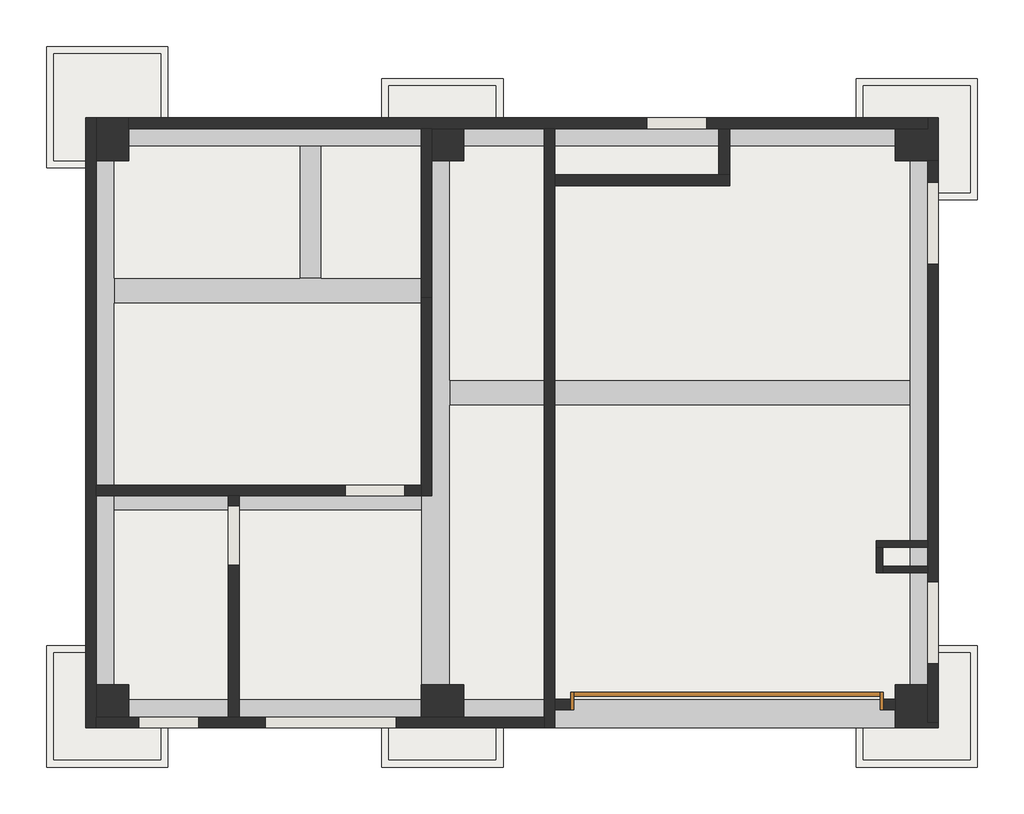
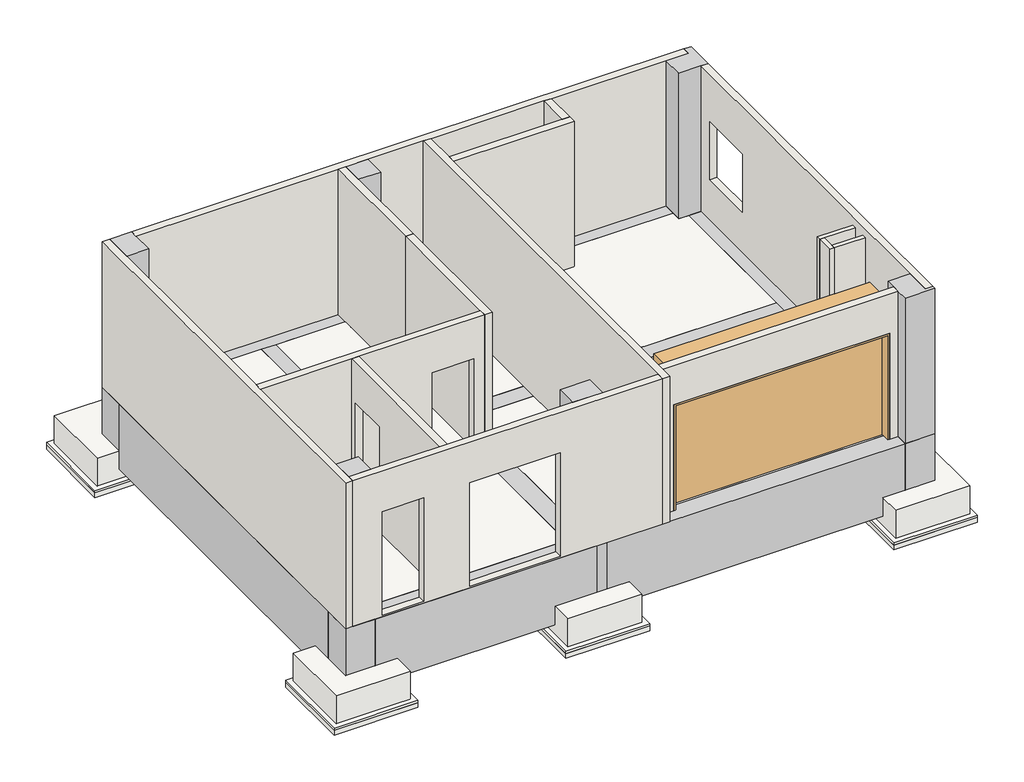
# One storey: 15 walls, 12 columns, 12 slabs, 11 beams, 1 door.
"""IFC4 building model written with IfcOpenShell, lengths in millimetres."""

from ifc_helpers import new_model, si_unit, frame, origin, origin_with_axes, place, context, project, spatial, polyline, outline, extrude, faceted_brep, transform, mapped, element, save
from components import w4300h2235_341fbf0f

model = new_model("IFC4")

# Units and contexts
model_context = context("Model", 3, world=origin())
ifc_project = project(units=[si_unit("LENGTHUNIT", "METRE", prefix="MILLI")], contexts=[model_context])

# Site, building, storey
site = spatial("IfcSite", under=ifc_project)
building = spatial("IfcBuilding", under=site)
storey = spatial("IfcBuildingStorey", under=building, Name="GL=1SL", Elevation=0.0)

# Beams
placement = place(None, origin())
element("IfcBeam", 1, ObjectType="コンクリート-長方形梁 : B1-350x550", at=placement, inside=storey, context=model_context, shape_type="SweptSolid", body=[
    extrude(outline(polyline([(11475.0, 4795.0), (11475.0, 4445.0), (5025.0, 4445.0), (5025.0, 4795.0), (11475.0, 4795.0)])), frame((0.0, 0.0, -550.0), z_axis=(0.0, 0.0, 1.0), x_axis=(1.0, 0.0, 0.0)), (0.0, 0.0, 1.0), 550.0),
])
element("IfcBeam", 2, ObjectType="コンクリート-長方形梁 : B1-350x550", at=placement, inside=storey, context=model_context, shape_type="Brep", body=[
    faceted_brep([(325.0, 6225.0, 0.0), (325.0, 5875.0, 0.0), (4625.0, 5875.0, 0.0), (4625.0, 6225.0, 0.0), (3225.0, 6225.0, 0.0), (2925.0, 6225.0, 0.0), (325.0, 5875.0, -550.0), (4625.0, 5875.0, -550.0), (325.0, 6225.0, -550.0), (4625.0, 6225.0, -550.0)], [[[0, 1, 2, 3, 4, 5]], [[1, 6, 7, 2]], [[6, 8, 9, 7]], [[8, 0, 5, 4, 3, 9]], [[1, 0, 8, 6]], [[3, 2, 7, 9]]]),
])
element("IfcBeam", 3, ObjectType="コンクリート-長方形梁 : B1-350x550", at=placement, inside=storey, context=model_context, shape_type="SweptSolid", body=[
    extrude(outline(polyline([(325.0, 2975.0), (325.0, 3325.0), (4625.0, 3325.0), (4625.0, 2975.0), (325.0, 2975.0)])), frame((0.0, 0.0, -550.0), z_axis=(0.0, 0.0, 1.0), x_axis=(1.0, 0.0, 0.0)), (0.0, 0.0, 1.0), 550.0),
])
element("IfcBeam", 4, ObjectType="コンクリート-長方形梁 : B2-300x500", at=placement, inside=storey, context=model_context, shape_type="SweptSolid", body=[
    extrude(outline(polyline([(2925.0, 8075.0), (3225.0, 8075.0), (3225.0, 6225.0), (2925.0, 6225.0), (2925.0, 8075.0)])), frame((0.0, 0.0, -500.0), z_axis=(0.0, 0.0, 1.0), x_axis=(1.0, 0.0, 0.0)), (0.0, 0.0, 1.0), 500.0),
])
element("IfcBeam", 5, ObjectType="コンクリート-長方形梁 : G0-400x1400", at=placement, inside=storey, context=model_context, shape_type="Brep", body=[
    faceted_brep([(5025.0, -75.0, 0.0), (5025.0, 325.0, 0.0), (4625.0, 325.0, 0.0), (525.0, 325.0, 0.0), (525.0, -75.0, 0.0), (525.0, -75.0, -1000.0), (975.0, -75.0, -1000.0), (975.0, -75.0, -1400.0), (4175.0, -75.0, -1400.0), (4175.0, -75.0, -1000.0), (5025.0, -75.0, -1000.0), (975.0, 325.0, -1400.0), (4175.0, 325.0, -1400.0), (5025.0, 325.0, -1000.0), (4625.0, 325.0, -1000.0), (4175.0, 325.0, -1000.0), (975.0, 325.0, -1000.0), (525.0, 325.0, -1000.0)], [[[0, 1, 2, 3, 4]], [[0, 4, 5, 6, 7, 8, 9, 10]], [[7, 11, 12, 8]], [[3, 2, 1, 13, 14, 15, 12, 11, 16, 17]], [[1, 0, 10, 13]], [[4, 3, 17, 5]], [[16, 6, 5, 17]], [[6, 16, 11, 7]], [[9, 15, 14, 13, 10]], [[15, 9, 8, 12]]]),
])
element("IfcBeam", 6, ObjectType="コンクリート-長方形梁 : G0-400x1400", at=placement, inside=storey, context=model_context, shape_type="SweptSolid", body=[
    extrude(outline(polyline([(0.0, 5225.0), (-1000.0, 5225.0), (-1000.0, 5675.0), (-1400.0, 5675.0), (-1400.0, 10825.0), (-1000.0, 10825.0), (-1000.0, 11275.0), (0.0, 11275.0), (0.0, 5225.0)])), frame((0.0, -75.0, 0.0), z_axis=(0.0, 1.0, 0.0), x_axis=(0.0, 0.0, 1.0)), (0.0, 0.0, 1.0), 400.0),
])
element("IfcBeam", 7, ObjectType="コンクリート-長方形梁 : G0-400x1400", at=placement, inside=storey, context=model_context, shape_type="SweptSolid", body=[
    extrude(outline(polyline([(7875.0, 0.0), (7875.0, -1000.0), (7425.0, -1000.0), (7425.0, -1400.0), (975.0, -1400.0), (975.0, -1000.0), (525.0, -1000.0), (525.0, 0.0), (7875.0, 0.0)])), frame((11475.0, 0.0, 0.0), z_axis=(1.0, 0.0, 0.0), x_axis=(0.0, 1.0, 0.0)), (0.0, 0.0, 1.0), 400.0),
])
element("IfcBeam", 8, ObjectType="コンクリート-長方形梁 : G0-400x1400", at=placement, inside=storey, context=model_context, shape_type="SweptSolid", body=[
    extrude(outline(polyline([(-1000.0, 11275.0), (0.0, 11275.0), (0.0, 5225.0), (-1000.0, 5225.0), (-1000.0, 5675.0), (-1400.0, 5675.0), (-1400.0, 10825.0), (-1000.0, 10825.0), (-1000.0, 11275.0)])), frame((0.0, 8075.0, 0.0), z_axis=(0.0, 1.0, 0.0), x_axis=(0.0, 0.0, 1.0)), (0.0, 0.0, 1.0), 400.0),
])
element("IfcBeam", 9, ObjectType="コンクリート-長方形梁 : G0-400x1400", at=placement, inside=storey, context=model_context, shape_type="SweptSolid", body=[
    extrude(outline(polyline([(0.0, 4625.0), (0.0, 525.0), (-1000.0, 525.0), (-1000.0, 975.0), (-1400.0, 975.0), (-1400.0, 4175.0), (-1000.0, 4175.0), (-1000.0, 4625.0), (0.0, 4625.0)])), frame((0.0, 8075.0, 0.0), z_axis=(0.0, 1.0, 0.0), x_axis=(0.0, 0.0, 1.0)), (0.0, 0.0, 1.0), 400.0),
])
element("IfcBeam", 10, ObjectType="コンクリート-長方形梁 : G0-400x1400", at=placement, inside=storey, context=model_context, shape_type="Brep", body=[
    faceted_brep([(325.0, 7875.0, 0.0), (-75.0, 7875.0, 0.0), (-75.0, 525.0, 0.0), (325.0, 525.0, 0.0), (-75.0, 7875.0, -1000.0), (-75.0, 7875.0, -1400.0), (-75.0, 975.0, -1400.0), (-75.0, 975.0, -1000.0), (-75.0, 525.0, -1000.0), (325.0, 7875.0, -1400.0), (325.0, 975.0, -1400.0), (325.0, 525.0, -1000.0), (325.0, 975.0, -1000.0)], [[[0, 1, 2, 3]], [[2, 1, 4, 5, 6, 7, 8]], [[5, 9, 10, 6]], [[0, 3, 11, 12, 10, 9]], [[1, 0, 9, 5, 4]], [[3, 2, 8, 11]], [[7, 12, 11, 8]], [[12, 7, 6, 10]]]),
])
element("IfcBeam", 11, ObjectType="コンクリート-長方形梁 : G0-400x1400", at=placement, inside=storey, context=model_context, shape_type="Brep", body=[
    faceted_brep([(4625.0, 525.0, 0.0), (5025.0, 525.0, 0.0), (5025.0, 4445.0, 0.0), (5025.0, 4795.0, 0.0), (5025.0, 7875.0, 0.0), (4625.0, 7875.0, 0.0), (4625.0, 6225.0, 0.0), (4625.0, 5875.0, 0.0), (4625.0, 3325.0, 0.0), (4625.0, 2975.0, 0.0), (4625.0, 525.0, -1000.0), (4625.0, 7875.0, -1000.0), (4625.0, 7425.0, -1000.0), (4625.0, 7425.0, -1400.0), (4625.0, 975.0, -1400.0), (4625.0, 975.0, -1000.0), (5025.0, 975.0, -1400.0), (5025.0, 7425.0, -1400.0), (5025.0, 525.0, -1000.0), (5025.0, 975.0, -1000.0), (5025.0, 7425.0, -1000.0), (5025.0, 7875.0, -1000.0)], [[[0, 1, 2, 3, 4, 5, 6, 7, 8, 9]], [[10, 0, 9, 8, 7, 6, 5, 11, 12, 13, 14, 15]], [[16, 14, 13, 17]], [[1, 18, 19, 16, 17, 20, 21, 4, 3, 2]], [[1, 0, 10, 18]], [[5, 4, 21, 11]], [[15, 19, 18, 10]], [[19, 15, 14, 16]], [[20, 12, 11, 21]], [[12, 20, 17, 13]]]),
])

# Columns
element("IfcColumn", 12, ObjectType="角柱 : 600 x 600mm", at=placement, inside=storey, context=model_context, shape_type="Brep", body=[
    faceted_brep([(525.0, 8475.0, 0.0), (-75.0, 8475.0, 0.0), (-75.0, 7875.0, 0.0), (325.0, 7875.0, 0.0), (525.0, 7875.0, 0.0), (525.0, 8075.0, 0.0), (525.0, 8475.0, -1000.0), (525.0, 8075.0, -1000.0), (525.0, 7875.0, -1000.0), (-75.0, 7875.0, -1000.0), (-75.0, 8475.0, -1000.0)], [[[0, 1, 2, 3, 4, 5]], [[6, 7, 8, 9, 10]], [[1, 0, 6, 10]], [[2, 1, 10, 9]], [[4, 3, 2, 9, 8]], [[0, 5, 4, 8, 7, 6]]]),
])
element("IfcColumn", 13, ObjectType="角柱 : 600 x 600mm", at=placement, inside=storey, context=model_context, shape_type="Brep", body=[
    faceted_brep([(5225.0, 8475.0, 0.0), (4625.0, 8475.0, 0.0), (4625.0, 8075.0, 0.0), (4625.0, 7875.0, 0.0), (5025.0, 7875.0, 0.0), (5225.0, 7875.0, 0.0), (5225.0, 8075.0, 0.0), (5225.0, 8475.0, -1000.0), (5225.0, 8075.0, -1000.0), (5225.0, 7875.0, -1000.0), (5025.0, 7875.0, -1000.0), (4625.0, 7875.0, -1000.0), (4625.0, 8075.0, -1000.0), (4625.0, 8475.0, -1000.0)], [[[0, 1, 2, 3, 4, 5, 6]], [[7, 8, 9, 10, 11, 12, 13]], [[1, 0, 7, 13]], [[3, 2, 1, 13, 12, 11]], [[5, 4, 3, 11, 10, 9]], [[0, 6, 5, 9, 8, 7]]]),
])
element("IfcColumn", 14, ObjectType="角柱 : 600 x 600mm", at=placement, inside=storey, context=model_context, shape_type="Brep", body=[
    faceted_brep([(525.0, 525.0, 0.0), (325.0, 525.0, 0.0), (-75.0, 525.0, 0.0), (-75.0, -75.0, 0.0), (525.0, -75.0, 0.0), (525.0, 325.0, 0.0), (525.0, 525.0, -1000.0), (525.0, 325.0, -1000.0), (525.0, -75.0, -1000.0), (-75.0, -75.0, -1000.0), (-75.0, 525.0, -1000.0), (325.0, 525.0, -1000.0)], [[[0, 1, 2, 3, 4, 5]], [[6, 7, 8, 9, 10, 11]], [[2, 1, 0, 6, 11, 10]], [[3, 2, 10, 9]], [[4, 3, 9, 8]], [[0, 5, 4, 8, 7, 6]]]),
])
element("IfcColumn", 15, ObjectType="角柱 : 600 x 600mm", at=placement, inside=storey, context=model_context, shape_type="Brep", body=[
    faceted_brep([(5225.0, 525.0, 0.0), (5025.0, 525.0, 0.0), (4625.0, 525.0, 0.0), (4625.0, 325.0, 0.0), (5025.0, 325.0, 0.0), (5025.0, -75.0, 0.0), (5225.0, -75.0, 0.0), (5225.0, 325.0, 0.0), (5225.0, 525.0, -1000.0), (5225.0, 325.0, -1000.0), (5225.0, -75.0, -1000.0), (5025.0, -75.0, -1000.0), (5025.0, 325.0, -1000.0), (4625.0, 325.0, -1000.0), (4625.0, 525.0, -1000.0), (5025.0, 525.0, -1000.0)], [[[0, 1, 2, 3, 4, 5, 6, 7]], [[8, 9, 10, 11, 12, 13, 14, 15]], [[2, 1, 0, 8, 15, 14]], [[2, 14, 13, 3]], [[10, 6, 5, 11]], [[0, 7, 6, 10, 9, 8]], [[12, 4, 3, 13]], [[4, 12, 11, 5]]]),
])
element("IfcColumn", 16, ObjectType="角柱 : 600 x 600mm", at=placement, inside=storey, context=model_context, shape_type="Brep", body=[
    faceted_brep([(11875.0, 8475.0, 0.0), (11275.0, 8475.0, 0.0), (11275.0, 8075.0, 0.0), (11275.0, 7875.0, 0.0), (11475.0, 7875.0, 0.0), (11875.0, 7875.0, 0.0), (11875.0, 8475.0, -1000.0), (11875.0, 7875.0, -1000.0), (11475.0, 7875.0, -1000.0), (11275.0, 7875.0, -1000.0), (11275.0, 8075.0, -1000.0), (11275.0, 8475.0, -1000.0)], [[[0, 1, 2, 3, 4, 5]], [[6, 7, 8, 9, 10, 11]], [[1, 0, 6, 11]], [[3, 2, 1, 11, 10, 9]], [[5, 4, 3, 9, 8, 7]], [[0, 5, 7, 6]]]),
])
element("IfcColumn", 17, ObjectType="角柱 : 600 x 600mm", at=placement, inside=storey, context=model_context, shape_type="Brep", body=[
    faceted_brep([(11875.0, 525.0, 0.0), (11475.0, 525.0, 0.0), (11275.0, 525.0, 0.0), (11275.0, 325.0, 0.0), (11275.0, -75.0, 0.0), (11875.0, -75.0, 0.0), (11875.0, 525.0, -1000.0), (11875.0, -75.0, -1000.0), (11275.0, -75.0, -1000.0), (11275.0, 325.0, -1000.0), (11275.0, 525.0, -1000.0), (11475.0, 525.0, -1000.0)], [[[0, 1, 2, 3, 4, 5]], [[6, 7, 8, 9, 10, 11]], [[2, 1, 0, 6, 11, 10]], [[4, 3, 2, 10, 9, 8]], [[5, 4, 8, 7]], [[0, 5, 7, 6]]]),
])
element("IfcColumn", 18, ObjectType="角柱 : 600 x 600mm", at=placement, inside=storey, context=model_context, shape_type="Brep", body=[
    faceted_brep([(525.0, 7875.0, 3120.0), (525.0, 8325.0, 3120.0), (525.0, 8475.0, 3120.0), (75.0, 8475.0, 3120.0), (75.0, 7875.0, 3120.0), (525.0, 8475.0, 0.0), (525.0, 8325.0, 0.0), (525.0, 7875.0, 0.0), (75.0, 7875.0, 0.0), (75.0, 8475.0, 0.0)], [[[0, 1, 2, 3, 4]], [[5, 6, 7, 8, 9]], [[2, 5, 9, 3]], [[7, 0, 4, 8]], [[2, 1, 0, 7, 6, 5]], [[4, 3, 9, 8]]]),
])
element("IfcColumn", 19, ObjectType="角柱 : 600 x 600mm", at=placement, inside=storey, context=model_context, shape_type="SweptSolid", body=[
    extrude(outline(polyline([(75.0, 525.0), (525.0, 525.0), (525.0, 75.0), (75.0, 75.0), (75.0, 525.0)])), origin_with_axes(), (0.0, 0.0, 1.0), 3120.0),
])
element("IfcColumn", 20, ObjectType="角柱 : 600 x 600mm", at=placement, inside=storey, context=model_context, shape_type="SweptSolid", body=[
    extrude(outline(polyline([(4625.0, 525.0), (5225.0, 525.0), (5225.0, 75.0), (4625.0, 75.0), (4625.0, 525.0)])), origin_with_axes(), (0.0, 0.0, 1.0), 3120.0),
])
element("IfcColumn", 21, ObjectType="角柱 : 600 x 600mm", at=placement, inside=storey, context=model_context, shape_type="Brep", body=[
    faceted_brep([(11275.0, 525.0, 3120.0), (11275.0, 325.0, 3120.0), (11275.0, 175.0, 3120.0), (11275.0, -75.0, 3120.0), (11875.0, -75.0, 3120.0), (11875.0, 0.0, 3120.0), (11725.0, 0.0, 3120.0), (11725.0, 525.0, 3120.0), (11875.0, -75.0, 0.0), (11275.0, -75.0, 0.0), (11275.0, 175.0, 0.0), (11275.0, 325.0, 0.0), (11275.0, 525.0, 0.0), (11725.0, 525.0, 0.0), (11725.0, 0.0, 0.0), (11875.0, 0.0, 0.0)], [[[0, 1, 2, 3, 4, 5, 6, 7]], [[8, 9, 10, 11, 12, 13, 14, 15]], [[12, 0, 7, 13]], [[3, 2, 1, 0, 12, 11, 10, 9]], [[4, 3, 9, 8]], [[4, 8, 15, 5]], [[6, 14, 13, 7]], [[14, 6, 5, 15]]]),
])
element("IfcColumn", 22, ObjectType="角柱 : 600 x 600mm", at=placement, inside=storey, context=model_context, shape_type="Brep", body=[
    faceted_brep([(11275.0, 7875.0, 3120.0), (11725.0, 7875.0, 3120.0), (11875.0, 7875.0, 3120.0), (11875.0, 8475.0, 3120.0), (11725.0, 8475.0, 3120.0), (11725.0, 8325.0, 3120.0), (11275.0, 8325.0, 3120.0), (11875.0, 8475.0, 0.0), (11875.0, 7875.0, 0.0), (11725.0, 7875.0, 0.0), (11275.0, 7875.0, 0.0), (11275.0, 8325.0, 0.0), (11725.0, 8325.0, 0.0), (11725.0, 8475.0, 0.0)], [[[0, 1, 2, 3, 4, 5, 6]], [[7, 8, 9, 10, 11, 12, 13]], [[3, 7, 13, 4]], [[10, 0, 6, 11]], [[2, 1, 0, 10, 9, 8]], [[3, 2, 8, 7]], [[5, 12, 11, 6]], [[12, 5, 4, 13]]]),
])
element("IfcColumn", 23, ObjectType="角柱 : 600 x 600mm", at=placement, inside=storey, context=model_context, shape_type="SweptSolid", body=[
    extrude(outline(polyline([(5225.0, 8325.0), (5225.0, 7875.0), (4775.0, 7875.0), (4775.0, 8325.0), (5225.0, 8325.0)])), origin_with_axes(), (0.0, 0.0, 1.0), 3120.0),
])

# Door
w4300h2235_shape = w4300h2235_341fbf0f(model_context)
element("IfcDoor", 24, ObjectType="シャッター : W4300H2235", at=placement, inside=storey, context=model_context, shape_type="MappedRepresentation", body=[
    mapped(w4300h2235_shape, transform((8915.0, 250.0, 0.0), x_axis=(-1.0, 0.0, 0.0), y_axis=(0.0, -1.0, 0.0), z_axis=(0.0, 0.0, 1.0))),
])

# Slabs
element("IfcSlab", 25, ObjectType="一般180mm", at=placement, inside=storey, context=model_context, shape_type="SweptSolid", body=[
    extrude(outline(polyline([(525.0, 7875.0), (525.0, 8075.0), (2925.0, 8075.0), (2925.0, 6225.0), (325.0, 6225.0), (325.0, 7875.0), (525.0, 7875.0)])), frame((0.0, 0.0, -180.0), z_axis=(0.0, 0.0, 1.0), x_axis=(1.0, 0.0, 0.0)), (0.0, 0.0, 1.0), 180.0),
])
element("IfcSlab", 26, ObjectType="一般180mm", at=placement, inside=storey, context=model_context, shape_type="SweptSolid", body=[
    extrude(outline(polyline([(3225.0, 8075.0), (4625.0, 8075.0), (4625.0, 6225.0), (3225.0, 6225.0), (3225.0, 8075.0)])), frame((0.0, 0.0, -180.0), z_axis=(0.0, 0.0, 1.0), x_axis=(1.0, 0.0, 0.0)), (0.0, 0.0, 1.0), 180.0),
])
element("IfcSlab", 27, ObjectType="一般180mm", at=placement, inside=storey, context=model_context, shape_type="SweptSolid", body=[
    extrude(outline(polyline([(4625.0, 5875.0), (4625.0, 3325.0), (325.0, 3325.0), (325.0, 5875.0), (4625.0, 5875.0)])), frame((0.0, 0.0, -180.0), z_axis=(0.0, 0.0, 1.0), x_axis=(1.0, 0.0, 0.0)), (0.0, 0.0, 1.0), 180.0),
])
element("IfcSlab", 28, ObjectType="一般180mm", at=placement, inside=storey, context=model_context, shape_type="SweptSolid", body=[
    extrude(outline(polyline([(4625.0, 2975.0), (4625.0, 325.0), (525.0, 325.0), (525.0, 525.0), (325.0, 525.0), (325.0, 2975.0), (4625.0, 2975.0)])), frame((0.0, 0.0, -180.0), z_axis=(0.0, 0.0, 1.0), x_axis=(1.0, 0.0, 0.0)), (0.0, 0.0, 1.0), 180.0),
])
element("IfcSlab", 29, ObjectType="一般180mm", at=placement, inside=storey, context=model_context, shape_type="SweptSolid", body=[
    extrude(outline(polyline([(5025.0, 525.0), (5025.0, 4445.0), (11475.0, 4445.0), (11475.0, 525.0), (11275.0, 525.0), (11275.0, 325.0), (5225.0, 325.0), (5225.0, 525.0), (5025.0, 525.0)])), frame((0.0, 0.0, -180.0), z_axis=(0.0, 0.0, 1.0), x_axis=(1.0, 0.0, 0.0)), (0.0, 0.0, 1.0), 180.0),
])
element("IfcSlab", 30, ObjectType="一般180mm", at=placement, inside=storey, context=model_context, shape_type="SweptSolid", body=[
    extrude(outline(polyline([(5225.0, 7875.0), (5225.0, 8075.0), (11275.0, 8075.0), (11275.0, 7875.0), (11475.0, 7875.0), (11475.0, 4795.0), (5025.0, 4795.0), (5025.0, 7875.0), (5225.0, 7875.0)])), frame((0.0, 0.0, -180.0), z_axis=(0.0, 0.0, 1.0), x_axis=(1.0, 0.0, 0.0)), (0.0, 0.0, 1.0), 180.0),
])
element("IfcSlab", 31, ObjectType="基礎-長方形 : 1500x1500x600mm", at=placement, inside=storey, context=model_context, shape_type="SolidModel", body=[
    faceted_brep([(975.0, 9375.0, -1600.0), (975.0, 7875.0, -1600.0), (-525.0, 7875.0, -1600.0), (-525.0, 9375.0, -1600.0), (975.0, 9375.0, -1000.0), (-525.0, 9375.0, -1000.0), (-525.0, 7875.0, -1000.0), (975.0, 7875.0, -1000.0), (975.0, 8075.0, -1000.0), (975.0, 8475.0, -1000.0)], [[[0, 1, 2, 3]], [[4, 5, 6, 7, 8, 9]], [[5, 4, 0, 3]], [[6, 5, 3, 2]], [[7, 6, 2, 1]], [[4, 9, 8, 7, 1, 0]]]),
    extrude(outline(polyline([(1075.0, 9475.0), (1075.0, 7775.0), (-625.0, 7775.0), (-625.0, 9475.0), (1075.0, 9475.0)])), frame((0.0, 0.0, -1650.0), z_axis=(0.0, 0.0, 1.0), x_axis=(1.0, 0.0, 0.0)), (0.0, 0.0, 1.0), 50.0),
    extrude(outline(polyline([(1075.0, 9475.0), (1075.0, 7775.0), (-625.0, 7775.0), (-625.0, 9475.0), (1075.0, 9475.0)])), frame((0.0, 0.0, -1750.0), z_axis=(0.0, 0.0, 1.0), x_axis=(1.0, 0.0, 0.0)), (0.0, 0.0, 1.0), 100.0),
])
element("IfcSlab", 32, ObjectType="基礎-長方形 : 1500x1500x600mm", at=placement, inside=storey, context=model_context, shape_type="SolidModel", body=[
    faceted_brep([(975.0, 975.0, -1600.0), (975.0, -525.0, -1600.0), (-525.0, -525.0, -1600.0), (-525.0, 975.0, -1600.0), (975.0, 975.0, -1000.0), (325.0, 975.0, -1000.0), (-75.0, 975.0, -1000.0), (-525.0, 975.0, -1000.0), (-525.0, -525.0, -1000.0), (975.0, -525.0, -1000.0), (975.0, -75.0, -1000.0), (975.0, 325.0, -1000.0)], [[[0, 1, 2, 3]], [[4, 5, 6, 7, 8, 9, 10, 11]], [[7, 6, 5, 4, 0, 3]], [[8, 7, 3, 2]], [[9, 8, 2, 1]], [[4, 11, 10, 9, 1, 0]]]),
    extrude(outline(polyline([(1075.0, 1075.0), (1075.0, -625.0), (-625.0, -625.0), (-625.0, 1075.0), (1075.0, 1075.0)])), frame((0.0, 0.0, -1650.0), z_axis=(0.0, 0.0, 1.0), x_axis=(1.0, 0.0, 0.0)), (0.0, 0.0, 1.0), 50.0),
    extrude(outline(polyline([(1075.0, 1075.0), (1075.0, -625.0), (-625.0, -625.0), (-625.0, 1075.0), (1075.0, 1075.0)])), frame((0.0, 0.0, -1750.0), z_axis=(0.0, 0.0, 1.0), x_axis=(1.0, 0.0, 0.0)), (0.0, 0.0, 1.0), 100.0),
])
element("IfcSlab", 33, ObjectType="基礎-長方形 : 1500x1500x600mm", at=placement, inside=storey, context=model_context, shape_type="SolidModel", body=[
    faceted_brep([(5675.0, 975.0, -1600.0), (5675.0, -525.0, -1600.0), (4175.0, -525.0, -1600.0), (4175.0, 975.0, -1600.0), (5675.0, 975.0, -1000.0), (5025.0, 975.0, -1000.0), (4625.0, 975.0, -1000.0), (4175.0, 975.0, -1000.0), (4175.0, 325.0, -1000.0), (4175.0, -75.0, -1000.0), (4175.0, -525.0, -1000.0), (5675.0, -525.0, -1000.0), (5675.0, -75.0, -1000.0), (5675.0, 325.0, -1000.0)], [[[0, 1, 2, 3]], [[4, 5, 6, 7, 8, 9, 10, 11, 12, 13]], [[7, 6, 5, 4, 0, 3]], [[10, 9, 8, 7, 3, 2]], [[11, 10, 2, 1]], [[4, 13, 12, 11, 1, 0]]]),
    extrude(outline(polyline([(5775.0, 1075.0), (5775.0, -625.0), (4075.0, -625.0), (4075.0, 1075.0), (5775.0, 1075.0)])), frame((0.0, 0.0, -1650.0), z_axis=(0.0, 0.0, 1.0), x_axis=(1.0, 0.0, 0.0)), (0.0, 0.0, 1.0), 50.0),
    extrude(outline(polyline([(5775.0, 1075.0), (5775.0, -625.0), (4075.0, -625.0), (4075.0, 1075.0), (5775.0, 1075.0)])), frame((0.0, 0.0, -1750.0), z_axis=(0.0, 0.0, 1.0), x_axis=(1.0, 0.0, 0.0)), (0.0, 0.0, 1.0), 100.0),
])
element("IfcSlab", 34, ObjectType="基礎-長方形 : 1500x1500x600mm", at=placement, inside=storey, context=model_context, shape_type="SolidModel", body=[
    faceted_brep([(5675.0, 8925.0, -1600.0), (5675.0, 7425.0, -1600.0), (4175.0, 7425.0, -1600.0), (4175.0, 8925.0, -1600.0), (5675.0, 8925.0, -1000.0), (4175.0, 8925.0, -1000.0), (4175.0, 8475.0, -1000.0), (4175.0, 8075.0, -1000.0), (4175.0, 7425.0, -1000.0), (4625.0, 7425.0, -1000.0), (5025.0, 7425.0, -1000.0), (5675.0, 7425.0, -1000.0), (5675.0, 8075.0, -1000.0), (5675.0, 8475.0, -1000.0)], [[[0, 1, 2, 3]], [[4, 5, 6, 7, 8, 9, 10, 11, 12, 13]], [[5, 4, 0, 3]], [[8, 7, 6, 5, 3, 2]], [[11, 10, 9, 8, 2, 1]], [[4, 13, 12, 11, 1, 0]]]),
    extrude(outline(polyline([(5775.0, 9025.0), (5775.0, 7325.0), (4075.0, 7325.0), (4075.0, 9025.0), (5775.0, 9025.0)])), frame((0.0, 0.0, -1650.0), z_axis=(0.0, 0.0, 1.0), x_axis=(1.0, 0.0, 0.0)), (0.0, 0.0, 1.0), 50.0),
    extrude(outline(polyline([(5775.0, 9025.0), (5775.0, 7325.0), (4075.0, 7325.0), (4075.0, 9025.0), (5775.0, 9025.0)])), frame((0.0, 0.0, -1750.0), z_axis=(0.0, 0.0, 1.0), x_axis=(1.0, 0.0, 0.0)), (0.0, 0.0, 1.0), 100.0),
])
element("IfcSlab", 35, ObjectType="基礎-長方形 : 1500x1500x600mm", at=placement, inside=storey, context=model_context, shape_type="SolidModel", body=[
    faceted_brep([(12325.0, 975.0, -1600.0), (12325.0, -525.0, -1600.0), (10825.0, -525.0, -1600.0), (10825.0, 975.0, -1600.0), (12325.0, 975.0, -1000.0), (11875.0, 975.0, -1000.0), (11475.0, 975.0, -1000.0), (10825.0, 975.0, -1000.0), (10825.0, 325.0, -1000.0), (10825.0, -75.0, -1000.0), (10825.0, -525.0, -1000.0), (12325.0, -525.0, -1000.0)], [[[0, 1, 2, 3]], [[4, 5, 6, 7, 8, 9, 10, 11]], [[7, 6, 5, 4, 0, 3]], [[10, 9, 8, 7, 3, 2]], [[11, 10, 2, 1]], [[4, 11, 1, 0]]]),
    extrude(outline(polyline([(12425.0, 1075.0), (12425.0, -625.0), (10725.0, -625.0), (10725.0, 1075.0), (12425.0, 1075.0)])), frame((0.0, 0.0, -1650.0), z_axis=(0.0, 0.0, 1.0), x_axis=(1.0, 0.0, 0.0)), (0.0, 0.0, 1.0), 50.0),
    extrude(outline(polyline([(12425.0, 1075.0), (12425.0, -625.0), (10725.0, -625.0), (10725.0, 1075.0), (12425.0, 1075.0)])), frame((0.0, 0.0, -1750.0), z_axis=(0.0, 0.0, 1.0), x_axis=(1.0, 0.0, 0.0)), (0.0, 0.0, 1.0), 100.0),
])
element("IfcSlab", 36, ObjectType="基礎-長方形 : 1500x1500x600mm", at=placement, inside=storey, context=model_context, shape_type="SolidModel", body=[
    faceted_brep([(12325.0, 8925.0, -1600.0), (12325.0, 7425.0, -1600.0), (10825.0, 7425.0, -1600.0), (10825.0, 8925.0, -1600.0), (12325.0, 8925.0, -1000.0), (10825.0, 8925.0, -1000.0), (10825.0, 8475.0, -1000.0), (10825.0, 8075.0, -1000.0), (10825.0, 7425.0, -1000.0), (11475.0, 7425.0, -1000.0), (11875.0, 7425.0, -1000.0), (12325.0, 7425.0, -1000.0)], [[[0, 1, 2, 3]], [[4, 5, 6, 7, 8, 9, 10, 11]], [[5, 4, 0, 3]], [[8, 7, 6, 5, 3, 2]], [[11, 10, 9, 8, 2, 1]], [[4, 11, 1, 0]]]),
    extrude(outline(polyline([(12425.0, 9025.0), (12425.0, 7325.0), (10725.0, 7325.0), (10725.0, 9025.0), (12425.0, 9025.0)])), frame((0.0, 0.0, -1650.0), z_axis=(0.0, 0.0, 1.0), x_axis=(1.0, 0.0, 0.0)), (0.0, 0.0, 1.0), 50.0),
    extrude(outline(polyline([(12425.0, 9025.0), (12425.0, 7325.0), (10725.0, 7325.0), (10725.0, 9025.0), (12425.0, 9025.0)])), frame((0.0, 0.0, -1750.0), z_axis=(0.0, 0.0, 1.0), x_axis=(1.0, 0.0, 0.0)), (0.0, 0.0, 1.0), 100.0),
])

# Walls
element("IfcWall", 37, ObjectType="標準-150mm", at=placement, inside=storey, context=model_context, shape_type="Brep", body=[
    faceted_brep([(-75.0, 8475.0, 0.0), (-75.0, -75.0, 0.0), (-75.0, -75.0, 3120.0), (-75.0, 8475.0, 3120.0), (75.0, 8475.0, 0.0), (75.0, 8475.0, 3120.0), (75.0, 8325.0, 3120.0), (75.0, 7875.0, 3120.0), (75.0, 3325.0, 3120.0), (75.0, 3175.0, 3120.0), (75.0, 525.0, 3120.0), (75.0, 75.0, 3120.0), (75.0, -75.0, 3120.0), (75.0, -75.0, 0.0), (75.0, 75.0, 0.0), (75.0, 525.0, 0.0), (75.0, 3175.0, 0.0), (75.0, 3325.0, 0.0), (75.0, 7875.0, 0.0), (75.0, 8325.0, 0.0)], [[[0, 1, 2, 3]], [[4, 5, 6, 7, 8, 9, 10, 11, 12, 13, 14, 15, 16, 17, 18, 19]], [[1, 0, 4, 19, 18, 17, 16, 15, 14, 13]], [[3, 2, 12, 11, 10, 9, 8, 7, 6, 5]], [[2, 1, 13, 12]], [[0, 3, 5, 4]]]),
])
element("IfcWall", 38, ObjectType="標準-150mm", at=placement, inside=storey, context=model_context, shape_type="Brep", body=[
    faceted_brep([(6350.0, 8325.0, 0.0), (6350.0, 75.0, 0.0), (6350.0, -75.0, 0.0), (6350.0, -75.0, 3120.0), (6350.0, 75.0, 3120.0), (6350.0, 8325.0, 3120.0), (6500.0, 8325.0, 0.0), (6500.0, 8325.0, 3120.0), (6500.0, 7675.0, 3120.0), (6500.0, 7525.0, 3120.0), (6500.0, 325.0, 3120.0), (6500.0, 175.0, 3120.0), (6500.0, -75.0, 3120.0), (6500.0, -75.0, 0.0), (6500.0, 175.0, 0.0), (6500.0, 325.0, 0.0), (6500.0, 7525.0, 0.0), (6500.0, 7675.0, 0.0)], [[[0, 1, 2, 3, 4, 5]], [[6, 7, 8, 9, 10, 11, 12, 13, 14, 15, 16, 17]], [[2, 1, 0, 6, 17, 16, 15, 14, 13]], [[5, 4, 3, 12, 11, 10, 9, 8, 7]], [[3, 2, 13, 12]], [[0, 5, 7, 6]]]),
])
element("IfcWall", 39, ObjectType="標準-150mm", at=placement, inside=storey, context=model_context, shape_type="Brep", body=[
    faceted_brep([(75.0, -75.0, 0.0), (6350.0, -75.0, 0.0), (6350.0, -75.0, 3120.0), (75.0, -75.0, 3120.0), (670.0, -75.0, 2255.0), (1510.0, -75.0, 2255.0), (1510.0, -75.0, 35.0), (670.0, -75.0, 35.0), (2440.0, -75.0, 2255.0), (4280.0, -75.0, 2255.0), (4280.0, -75.0, 35.0), (2440.0, -75.0, 35.0), (75.0, 75.0, 0.0), (75.0, 75.0, 3120.0), (525.0, 75.0, 3120.0), (1925.0, 75.0, 3120.0), (2075.0, 75.0, 3120.0), (4625.0, 75.0, 3120.0), (5225.0, 75.0, 3120.0), (6350.0, 75.0, 3120.0), (6350.0, 75.0, 0.0), (5225.0, 75.0, 0.0), (4625.0, 75.0, 0.0), (2075.0, 75.0, 0.0), (1925.0, 75.0, 0.0), (525.0, 75.0, 0.0), (670.0, 75.0, 2255.0), (670.0, 75.0, 35.0), (1510.0, 75.0, 35.0), (1510.0, 75.0, 2255.0), (2440.0, 75.0, 2255.0), (2440.0, 75.0, 35.0), (4280.0, 75.0, 35.0), (4280.0, 75.0, 2255.0)], [[[0, 1, 2, 3], [4, 5, 6, 7], [8, 9, 10, 11]], [[12, 13, 14, 15, 16, 17, 18, 19, 20, 21, 22, 23, 24, 25], [26, 27, 28, 29], [30, 31, 32, 33]], [[1, 0, 12, 25, 24, 23, 22, 21, 20]], [[3, 2, 19, 18, 17, 16, 15, 14, 13]], [[0, 3, 13, 12]], [[2, 1, 20, 19]], [[27, 26, 4, 7]], [[28, 27, 7, 6]], [[29, 28, 6, 5]], [[26, 29, 5, 4]], [[31, 30, 8, 11]], [[32, 31, 11, 10]], [[33, 32, 10, 9]], [[30, 33, 9, 8]]]),
])
element("IfcWall", 40, ObjectType="標準-150mm", at=placement, inside=storey, context=model_context, shape_type="Brep", body=[
    faceted_brep([(11725.0, 8475.0, 3120.0), (11725.0, 8475.0, 0.0), (525.0, 8475.0, 0.0), (525.0, 8475.0, 3120.0), (8630.0, 8475.0, 35.0), (8630.0, 8475.0, 2055.0), (7790.0, 8475.0, 2055.0), (7790.0, 8475.0, 35.0), (11725.0, 8325.0, 0.0), (11725.0, 8325.0, 3120.0), (11275.0, 8325.0, 3120.0), (8950.0, 8325.0, 3120.0), (8800.0, 8325.0, 3120.0), (6500.0, 8325.0, 3120.0), (6350.0, 8325.0, 3120.0), (5225.0, 8325.0, 3120.0), (4775.0, 8325.0, 3120.0), (4625.0, 8325.0, 3120.0), (525.0, 8325.0, 3120.0), (525.0, 8325.0, 0.0), (4625.0, 8325.0, 0.0), (4775.0, 8325.0, 0.0), (5225.0, 8325.0, 0.0), (6350.0, 8325.0, 0.0), (6500.0, 8325.0, 0.0), (8800.0, 8325.0, 0.0), (8950.0, 8325.0, 0.0), (11275.0, 8325.0, 0.0), (8630.0, 8325.0, 2055.0), (8630.0, 8325.0, 35.0), (7790.0, 8325.0, 35.0), (7790.0, 8325.0, 2055.0)], [[[0, 1, 2, 3], [4, 5, 6, 7]], [[8, 9, 10, 11, 12, 13, 14, 15, 16, 17, 18, 19, 20, 21, 22, 23, 24, 25, 26, 27], [28, 29, 30, 31]], [[1, 8, 27, 26, 25, 24, 23, 22, 21, 20, 19, 2]], [[9, 0, 3, 18, 17, 16, 15, 14, 13, 12, 11, 10]], [[1, 0, 9, 8]], [[29, 28, 5, 4]], [[30, 29, 4, 7]], [[31, 30, 7, 6]], [[28, 31, 6, 5]], [[3, 2, 19, 18]]]),
])
element("IfcWall", 41, ObjectType="標準-150mm", at=placement, inside=storey, context=model_context, shape_type="Brep", body=[
    faceted_brep([(11725.0, 0.0, 0.0), (11725.0, 0.0, 3120.0), (11725.0, 175.0, 3120.0), (11725.0, 325.0, 3120.0), (11725.0, 525.0, 3120.0), (11725.0, 7875.0, 3120.0), (11725.0, 7875.0, 0.0), (11725.0, 2545.0, 0.0), (11725.0, 2455.0, 0.0), (11725.0, 2190.0, 0.0), (11725.0, 2100.0, 0.0), (11725.0, 525.0, 0.0), (11725.0, 325.0, 0.0), (11725.0, 175.0, 0.0), (11725.0, 6425.0, 2110.0), (11725.0, 6425.0, 860.0), (11725.0, 7575.0, 860.0), (11725.0, 7575.0, 2110.0), (11725.0, 825.0, 2060.0), (11725.0, 825.0, 810.0), (11725.0, 1975.0, 810.0), (11725.0, 1975.0, 2060.0), (11875.0, 0.0, 3120.0), (11875.0, 0.0, 0.0), (11875.0, 7875.0, 0.0), (11875.0, 7875.0, 3120.0), (11875.0, 6425.0, 860.0), (11875.0, 6425.0, 2110.0), (11875.0, 7575.0, 2110.0), (11875.0, 7575.0, 860.0), (11875.0, 825.0, 810.0), (11875.0, 825.0, 2060.0), (11875.0, 1975.0, 2060.0), (11875.0, 1975.0, 810.0)], [[[0, 1, 2, 3, 4, 5, 6, 7, 8, 9, 10, 11, 12, 13], [14, 15, 16, 17], [18, 19, 20, 21]], [[22, 23, 24, 25], [26, 27, 28, 29], [30, 31, 32, 33]], [[23, 0, 13, 12, 11, 10, 9, 8, 7, 6, 24]], [[1, 0, 23, 22]], [[1, 22, 25, 5, 4, 3, 2]], [[15, 14, 27, 26]], [[16, 15, 26, 29]], [[17, 16, 29, 28]], [[14, 17, 28, 27]], [[19, 18, 31, 30]], [[20, 19, 30, 33]], [[21, 20, 33, 32]], [[18, 21, 32, 31]], [[6, 5, 25, 24]]]),
])
element("IfcWall", 42, ObjectType="標準-150mm", at=placement, inside=storey, context=model_context, shape_type="SweptSolid", body=[
    extrude(outline(polyline([(3120.0, 6500.0), (0.0, 6500.0), (0.0, 6725.0), (2275.0, 6725.0), (2275.0, 11105.0), (0.0, 11105.0), (0.0, 11275.0), (3120.0, 11275.0), (3120.0, 6500.0)])), frame((0.0, 175.0, 0.0), z_axis=(0.0, 1.0, 0.0), x_axis=(0.0, 0.0, 1.0)), (0.0, 0.0, 1.0), 150.0),
])
element("IfcWall", 43, ObjectType="標準-90mm", at=placement, inside=storey, context=model_context, shape_type="Brep", body=[
    faceted_brep([(11725.0, 2545.0, 0.0), (11005.0, 2545.0, 0.0), (11005.0, 2545.0, 2940.0), (11725.0, 2545.0, 2940.0), (11725.0, 2455.0, 0.0), (11725.0, 2455.0, 2940.0), (11095.0, 2455.0, 2940.0), (11005.0, 2455.0, 2940.0), (11005.0, 2455.0, 0.0), (11095.0, 2455.0, 0.0)], [[[0, 1, 2, 3]], [[4, 5, 6, 7, 8, 9]], [[1, 0, 4, 9, 8]], [[3, 2, 7, 6, 5]], [[0, 3, 5, 4]], [[2, 1, 8, 7]]]),
])
element("IfcWall", 44, ObjectType="標準-90mm", at=placement, inside=storey, context=model_context, shape_type="Brep", body=[
    faceted_brep([(11005.0, 2455.0, 0.0), (11005.0, 2100.0, 0.0), (11005.0, 2100.0, 2940.0), (11005.0, 2455.0, 2940.0), (11095.0, 2455.0, 0.0), (11095.0, 2455.0, 2940.0), (11095.0, 2190.0, 2940.0), (11095.0, 2100.0, 2940.0), (11095.0, 2100.0, 0.0), (11095.0, 2190.0, 0.0)], [[[0, 1, 2, 3]], [[4, 5, 6, 7, 8, 9]], [[1, 0, 4, 9, 8]], [[3, 2, 7, 6, 5]], [[0, 3, 5, 4]], [[2, 1, 8, 7]]]),
])
element("IfcWall", 45, ObjectType="標準-90mm", at=placement, inside=storey, context=model_context, shape_type="SweptSolid", body=[
    extrude(outline(polyline([(11725.0, 2100.0), (11095.0, 2100.0), (11095.0, 2190.0), (11725.0, 2190.0), (11725.0, 2100.0)])), origin_with_axes(), (0.0, 0.0, 1.0), 2940.0),
])
element("IfcWall", 46, ObjectType="標準-150mm", at=placement, inside=storey, context=model_context, shape_type="Brep", body=[
    faceted_brep([(6500.0, 7525.0, 0.0), (8950.0, 7525.0, 0.0), (8950.0, 7525.0, 3120.0), (6500.0, 7525.0, 3120.0), (6500.0, 7675.0, 0.0), (6500.0, 7675.0, 3120.0), (8800.0, 7675.0, 3120.0), (8950.0, 7675.0, 3120.0), (8950.0, 7675.0, 0.0), (8800.0, 7675.0, 0.0)], [[[0, 1, 2, 3]], [[4, 5, 6, 7, 8, 9]], [[1, 0, 4, 9, 8]], [[3, 2, 7, 6, 5]], [[0, 3, 5, 4]], [[2, 1, 8, 7]]]),
])
element("IfcWall", 47, ObjectType="標準-150mm", at=placement, inside=storey, context=model_context, shape_type="SweptSolid", body=[
    extrude(outline(polyline([(8950.0, 8325.0), (8950.0, 7675.0), (8800.0, 7675.0), (8800.0, 8325.0), (8950.0, 8325.0)])), origin_with_axes(), (0.0, 0.0, 1.0), 3120.0),
])
element("IfcWall", 48, ObjectType="標準-150mm", at=placement, inside=storey, context=model_context, shape_type="Brep", body=[
    faceted_brep([(4625.0, 5950.0, 0.0), (4625.0, 3325.0, 0.0), (4625.0, 3175.0, 0.0), (4625.0, 3175.0, 3120.0), (4625.0, 3325.0, 3120.0), (4625.0, 5950.0, 3120.0), (4775.0, 5950.0, 0.0), (4775.0, 5950.0, 3120.0), (4775.0, 3175.0, 3120.0), (4775.0, 3175.0, 0.0)], [[[0, 1, 2, 3, 4, 5]], [[6, 7, 8, 9]], [[2, 1, 0, 6, 9]], [[5, 4, 3, 8, 7]], [[0, 5, 7, 6]], [[3, 2, 9, 8]]]),
])
element("IfcWall", 49, ObjectType="標準-150mm", at=placement, inside=storey, context=model_context, shape_type="Brep", body=[
    faceted_brep([(4625.0, 3325.0, 0.0), (75.0, 3325.0, 0.0), (75.0, 3325.0, 3120.0), (4625.0, 3325.0, 3120.0), (3560.0, 3325.0, 2255.0), (3560.0, 3325.0, 35.0), (4400.0, 3325.0, 35.0), (4400.0, 3325.0, 2255.0), (4625.0, 3175.0, 0.0), (4625.0, 3175.0, 3120.0), (2075.0, 3175.0, 3120.0), (1925.0, 3175.0, 3120.0), (75.0, 3175.0, 3120.0), (75.0, 3175.0, 0.0), (1925.0, 3175.0, 0.0), (2075.0, 3175.0, 0.0), (3560.0, 3175.0, 2255.0), (4400.0, 3175.0, 2255.0), (4400.0, 3175.0, 35.0), (3560.0, 3175.0, 35.0)], [[[0, 1, 2, 3], [4, 5, 6, 7]], [[8, 9, 10, 11, 12, 13, 14, 15], [16, 17, 18, 19]], [[1, 0, 8, 15, 14, 13]], [[3, 2, 12, 11, 10, 9]], [[0, 3, 9, 8]], [[2, 1, 13, 12]], [[5, 4, 16, 19]], [[6, 5, 19, 18]], [[7, 6, 18, 17]], [[4, 7, 17, 16]]]),
])
element("IfcWall", 50, ObjectType="標準-150mm", at=placement, inside=storey, context=model_context, shape_type="SweptSolid", body=[
    extrude(outline(polyline([(3175.0, 0.0), (75.0, 0.0), (75.0, 3120.0), (3175.0, 3120.0), (3175.0, 0.0)]), holes=[polyline([(3040.0, 2255.0), (2200.0, 2255.0), (2200.0, 35.0), (3040.0, 35.0), (3040.0, 2255.0)])]), frame((1925.0, 0.0, 0.0), z_axis=(1.0, 0.0, 0.0), x_axis=(0.0, 1.0, 0.0)), (0.0, 0.0, 1.0), 150.0),
])
element("IfcWall", 51, ObjectType="標準-150mm", at=placement, inside=storey, context=model_context, shape_type="Brep", body=[
    faceted_brep([(4625.0, 8325.0, 0.0), (4625.0, 5950.0, 0.0), (4625.0, 5950.0, 3120.0), (4625.0, 8325.0, 3120.0), (4775.0, 8325.0, 0.0), (4775.0, 8325.0, 3120.0), (4775.0, 7875.0, 3120.0), (4775.0, 5950.0, 3120.0), (4775.0, 5950.0, 0.0), (4775.0, 7875.0, 0.0)], [[[0, 1, 2, 3]], [[4, 5, 6, 7, 8, 9]], [[1, 0, 4, 9, 8]], [[2, 1, 8, 7]], [[3, 2, 7, 6, 5]], [[0, 3, 5, 4]]]),
])

save(model, "model.ifc")
